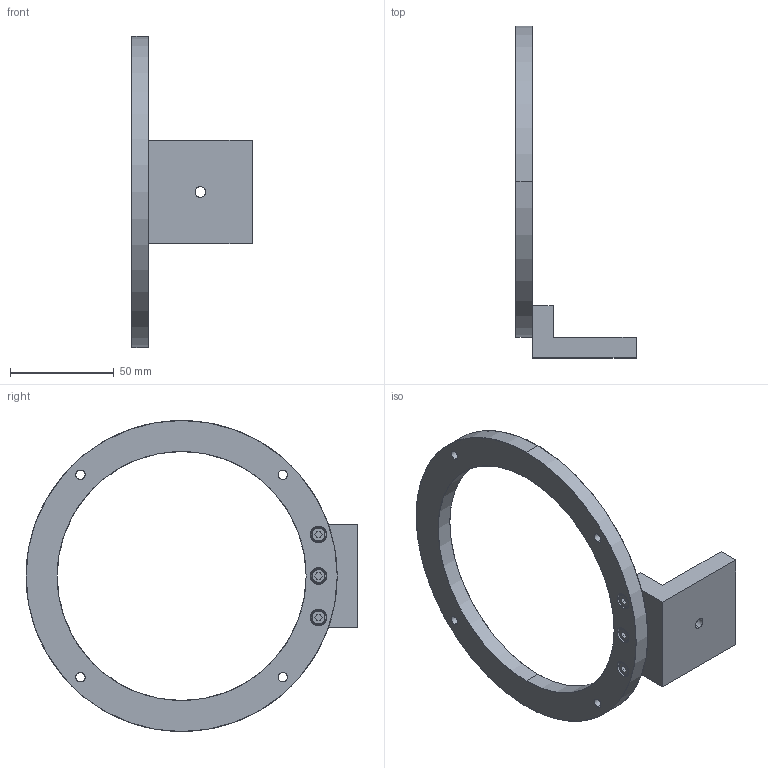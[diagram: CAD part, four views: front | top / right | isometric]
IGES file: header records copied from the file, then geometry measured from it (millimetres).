
Start section: SolidWorks IGES file using analytic representation for surfaces
Bounding box: 58 x 160 x 150 mm (x, y, z)
Surface area: 30320.3 mm2 (no closed solid volume)
Topology: 0 solids, 0 shells, 99 faces, 1904 edges, 1904 vertices
Faces by surface type: revolution 50, bspline 49
